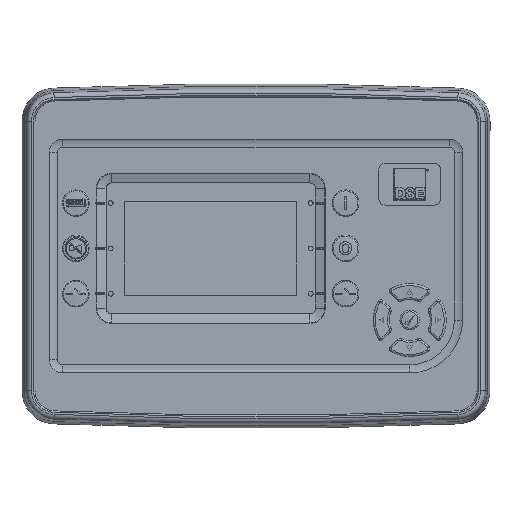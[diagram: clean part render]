
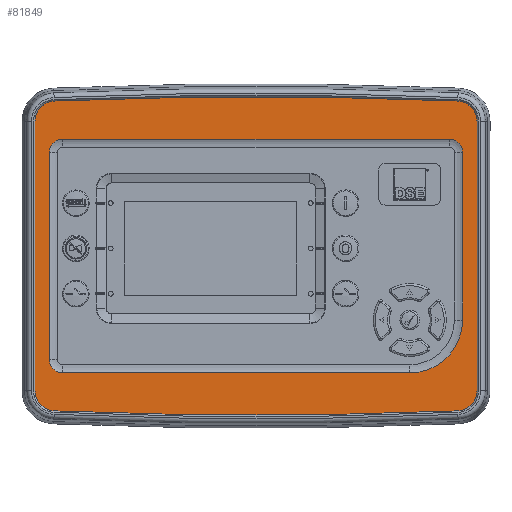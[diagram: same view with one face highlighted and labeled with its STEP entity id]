
A CAD part, top view. The second image highlights one B-rep face of the part: STEP entity #81849.
In plain terms, the highlighted planar face has unit normal (0, 0, 1).
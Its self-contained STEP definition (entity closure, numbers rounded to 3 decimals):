
#1801 = LINE ( 'NONE', #3977, #47409 ) ;
#1955 = CIRCLE ( 'NONE', #107808, 10.688 ) ;
#2365 = CARTESIAN_POINT ( 'NONE',  ( -106.958, 82.147, 14.3 ) ) ;
#3500 = VERTEX_POINT ( 'NONE', #53053 ) ;
#3977 = CARTESIAN_POINT ( 'NONE',  ( -102.5, -62., 14.3 ) ) ;
#4512 = AXIS2_PLACEMENT_3D ( 'NONE', #72890, #16916, #133772 ) ;
#6753 = EDGE_CURVE ( 'NONE', #3500, #36448, #64028, .T. ) ;
#8080 = DIRECTION ( 'NONE',  ( 0., 0., 1. ) ) ;
#8524 = EDGE_CURVE ( 'NONE', #18242, #41186, #1801, .T. ) ;
#8577 = DIRECTION ( 'NONE',  ( 1., 0., 0. ) ) ;
#9034 = VECTOR ( 'NONE', #92859, 1000. ) ;
#9946 = CARTESIAN_POINT ( 'NONE',  ( 109.5, 55., 14.3 ) ) ;
#10345 = EDGE_CURVE ( 'NONE', #132158, #3500, #126415, .T. ) ;
#11503 = CARTESIAN_POINT ( 'NONE',  ( 117.188, 71.468, 14.3 ) ) ;
#12013 = CIRCLE ( 'NONE', #138997, 7. ) ;
#13004 = CARTESIAN_POINT ( 'NONE',  ( 109.5, -34., 14.3 ) ) ;
#13156 = EDGE_CURVE ( 'NONE', #49899, #44950, #78149, .T. ) ;
#13270 = VERTEX_POINT ( 'NONE', #94265 ) ;
#13545 = DIRECTION ( 'NONE',  ( 0., 0., 1. ) ) ;
#14866 = AXIS2_PLACEMENT_3D ( 'NONE', #68294, #113221, #101439 ) ;
#16916 = DIRECTION ( 'NONE',  ( 0., 0., 1. ) ) ;
#18242 = VERTEX_POINT ( 'NONE', #24667 ) ;
#18370 = AXIS2_PLACEMENT_3D ( 'NONE', #31629, #8080, #44133 ) ;
#18471 = VERTEX_POINT ( 'NONE', #82819 ) ;
#18879 = ORIENTED_EDGE ( 'NONE', *, *, #8524, .F. ) ;
#21655 = ORIENTED_EDGE ( 'NONE', *, *, #24276, .F. ) ;
#21661 = ORIENTED_EDGE ( 'NONE', *, *, #32324, .F. ) ;
#24276 = EDGE_CURVE ( 'NONE', #37782, #130845, #119709, .T. ) ;
#24667 = CARTESIAN_POINT ( 'NONE',  ( -102.5, -62., 14.3 ) ) ;
#26367 = DIRECTION ( 'NONE',  ( 1., 0., 0. ) ) ;
#30683 = CARTESIAN_POINT ( 'NONE',  ( -102.5, 55., 14.3 ) ) ;
#31629 = CARTESIAN_POINT ( 'NONE',  ( 0., -2412.792, 14.3 ) ) ;
#31733 = EDGE_CURVE ( 'NONE', #104806, #132158, #1955, .T. ) ;
#32324 = EDGE_CURVE ( 'NONE', #39393, #13270, #145589, .T. ) ;
#32832 = DIRECTION ( 'NONE',  ( 0., -1., 0. ) ) ;
#34470 = EDGE_CURVE ( 'NONE', #36448, #45423, #100597, .T. ) ;
#34920 = ORIENTED_EDGE ( 'NONE', *, *, #40389, .T. ) ;
#35417 = VERTEX_POINT ( 'NONE', #48470 ) ;
#36448 = VERTEX_POINT ( 'NONE', #95382 ) ;
#36940 = DIRECTION ( 'NONE',  ( 1., 0., 0. ) ) ;
#37134 = CARTESIAN_POINT ( 'NONE',  ( 106.5, -71.468, 14.3 ) ) ;
#37782 = VERTEX_POINT ( 'NONE', #9946 ) ;
#38119 = AXIS2_PLACEMENT_3D ( 'NONE', #78885, #68552, #124515 ) ;
#38376 = ORIENTED_EDGE ( 'NONE', *, *, #6753, .T. ) ;
#39393 = VERTEX_POINT ( 'NONE', #143302 ) ;
#40389 = EDGE_CURVE ( 'NONE', #45423, #35417, #92574, .T. ) ;
#41186 = VERTEX_POINT ( 'NONE', #122103 ) ;
#41550 = CARTESIAN_POINT ( 'NONE',  ( -106.5, -71.468, 14.3 ) ) ;
#43835 = CARTESIAN_POINT ( 'NONE',  ( -102.5, -55., 14.3 ) ) ;
#44133 = DIRECTION ( 'NONE',  ( 1., 0., 0. ) ) ;
#44950 = VERTEX_POINT ( 'NONE', #94693 ) ;
#44984 = VERTEX_POINT ( 'NONE', #13004 ) ;
#45048 = CARTESIAN_POINT ( 'NONE',  ( -109.5, 55., 14.3 ) ) ;
#45423 = VERTEX_POINT ( 'NONE', #73148 ) ;
#46631 = ORIENTED_EDGE ( 'NONE', *, *, #34470, .T. ) ;
#47212 = DIRECTION ( 'NONE',  ( 0., -1., 0. ) ) ;
#47409 = VECTOR ( 'NONE', #63584, 1000. ) ;
#47980 = FACE_BOUND ( 'NONE', #64705, .T. ) ;
#48470 = CARTESIAN_POINT ( 'NONE',  ( 106.958, 82.147, 14.3 ) ) ;
#48587 = ORIENTED_EDGE ( 'NONE', *, *, #129292, .F. ) ;
#49899 = VERTEX_POINT ( 'NONE', #2365 ) ;
#49906 = ORIENTED_EDGE ( 'NONE', *, *, #31733, .T. ) ;
#51847 = DIRECTION ( 'NONE',  ( 1., 0., 0. ) ) ;
#53053 = CARTESIAN_POINT ( 'NONE',  ( 106.958, -82.147, 14.3 ) ) ;
#55631 = LINE ( 'NONE', #110898, #85195 ) ;
#57450 = ORIENTED_EDGE ( 'NONE', *, *, #139438, .F. ) ;
#59004 = CARTESIAN_POINT ( 'NONE',  ( 0., -2412.792, 14.3 ) ) ;
#59133 = ORIENTED_EDGE ( 'NONE', *, *, #100692, .T. ) ;
#60370 = ORIENTED_EDGE ( 'NONE', *, *, #122349, .F. ) ;
#63584 = DIRECTION ( 'NONE',  ( 1., 0., 0. ) ) ;
#64028 = CIRCLE ( 'NONE', #111127, 10.688 ) ;
#64705 = EDGE_LOOP ( 'NONE', ( #57450, #18879, #94805, #113857, #21661, #60370, #21655, #48587 ) ) ;
#65384 = DIRECTION ( 'NONE',  ( 0., 1., 0. ) ) ;
#66226 = CIRCLE ( 'NONE', #127391, 28. ) ;
#67354 = DIRECTION ( 'NONE',  ( 1., 0., 0. ) ) ;
#68294 = CARTESIAN_POINT ( 'NONE',  ( 106.5, 71.468, 14.3 ) ) ;
#68552 = DIRECTION ( 'NONE',  ( 0., 0., 1. ) ) ;
#68909 = DIRECTION ( 'NONE',  ( 0., 1., 0. ) ) ;
#69200 = ORIENTED_EDGE ( 'NONE', *, *, #109502, .T. ) ;
#69818 = VECTOR ( 'NONE', #65384, 1000. ) ;
#70116 = EDGE_CURVE ( 'NONE', #18471, #18242, #12013, .T. ) ;
#70739 = LINE ( 'NONE', #137043, #9034 ) ;
#72890 = CARTESIAN_POINT ( 'NONE',  ( 102.5, 55., 14.3 ) ) ;
#73148 = CARTESIAN_POINT ( 'NONE',  ( 117.188, 71.468, 14.3 ) ) ;
#76317 = DIRECTION ( 'NONE',  ( 0., 0., 1. ) ) ;
#78149 = CIRCLE ( 'NONE', #38119, 10.688 ) ;
#78885 = CARTESIAN_POINT ( 'NONE',  ( -106.5, 71.468, 14.3 ) ) ;
#81849 = ADVANCED_FACE ( 'NONE', ( #47980, #126017 ), #123850, .T. ) ;
#82819 = CARTESIAN_POINT ( 'NONE',  ( -109.5, -55., 14.3 ) ) ;
#82937 = CARTESIAN_POINT ( 'NONE',  ( -117.188, -71.468, 14.3 ) ) ;
#85195 = VECTOR ( 'NONE', #32832, 1000. ) ;
#86056 = CARTESIAN_POINT ( 'NONE',  ( 109.5, 55., 14.3 ) ) ;
#88425 = DIRECTION ( 'NONE',  ( 1., 0., 0. ) ) ;
#89470 = DIRECTION ( 'NONE',  ( 0., 0., 1. ) ) ;
#91760 = ORIENTED_EDGE ( 'NONE', *, *, #10345, .T. ) ;
#92574 = CIRCLE ( 'NONE', #14866, 10.688 ) ;
#92859 = DIRECTION ( 'NONE',  ( -1., 0., 0. ) ) ;
#94265 = CARTESIAN_POINT ( 'NONE',  ( -109.5, 55., 14.3 ) ) ;
#94693 = CARTESIAN_POINT ( 'NONE',  ( -117.188, 71.468, 14.3 ) ) ;
#94805 = ORIENTED_EDGE ( 'NONE', *, *, #70116, .F. ) ;
#95382 = CARTESIAN_POINT ( 'NONE',  ( 117.188, -71.468, 14.3 ) ) ;
#100597 = LINE ( 'NONE', #11503, #120105 ) ;
#100692 = EDGE_CURVE ( 'NONE', #44950, #104806, #55631, .T. ) ;
#101439 = DIRECTION ( 'NONE',  ( 1., 0., 0. ) ) ;
#103923 = DIRECTION ( 'NONE',  ( 0., 0., 1. ) ) ;
#104806 = VERTEX_POINT ( 'NONE', #82937 ) ;
#107808 = AXIS2_PLACEMENT_3D ( 'NONE', #41550, #140956, #51847 ) ;
#107829 = EDGE_LOOP ( 'NONE', ( #34920, #69200, #134318, #59133, #49906, #91760, #38376, #46631 ) ) ;
#109502 = EDGE_CURVE ( 'NONE', #35417, #49899, #124135, .T. ) ;
#110898 = CARTESIAN_POINT ( 'NONE',  ( -117.188, 71.468, 14.3 ) ) ;
#111127 = AXIS2_PLACEMENT_3D ( 'NONE', #37134, #13545, #125477 ) ;
#112337 = AXIS2_PLACEMENT_3D ( 'NONE', #112696, #145142, #88425 ) ;
#112696 = CARTESIAN_POINT ( 'NONE',  ( 0., 2412.792, 14.3 ) ) ;
#113221 = DIRECTION ( 'NONE',  ( 0., 0., 1. ) ) ;
#113857 = ORIENTED_EDGE ( 'NONE', *, *, #126922, .F. ) ;
#116195 = DIRECTION ( 'NONE',  ( 0., 0., 1. ) ) ;
#118443 = LINE ( 'NONE', #86056, #69818 ) ;
#119709 = CIRCLE ( 'NONE', #4512, 7. ) ;
#120105 = VECTOR ( 'NONE', #68909, 1000. ) ;
#122103 = CARTESIAN_POINT ( 'NONE',  ( 81.5, -62., 14.3 ) ) ;
#122349 = EDGE_CURVE ( 'NONE', #130845, #39393, #70739, .T. ) ;
#123850 = PLANE ( 'NONE',  #127725 ) ;
#124135 = CIRCLE ( 'NONE', #18370, 2497.23 ) ;
#124515 = DIRECTION ( 'NONE',  ( 1., 0., 0. ) ) ;
#124733 = VECTOR ( 'NONE', #47212, 1000. ) ;
#125477 = DIRECTION ( 'NONE',  ( 1., 0., 0. ) ) ;
#125779 = CARTESIAN_POINT ( 'NONE',  ( 81.5, -34., 14.3 ) ) ;
#125973 = LINE ( 'NONE', #45048, #124733 ) ;
#126017 = FACE_OUTER_BOUND ( 'NONE', #107829, .T. ) ;
#126415 = CIRCLE ( 'NONE', #112337, 2497.23 ) ;
#126922 = EDGE_CURVE ( 'NONE', #13270, #18471, #125973, .T. ) ;
#127391 = AXIS2_PLACEMENT_3D ( 'NONE', #125779, #116195, #26367 ) ;
#127725 = AXIS2_PLACEMENT_3D ( 'NONE', #59004, #103923, #36940 ) ;
#129292 = EDGE_CURVE ( 'NONE', #44984, #37782, #118443, .T. ) ;
#130845 = VERTEX_POINT ( 'NONE', #139298 ) ;
#132158 = VERTEX_POINT ( 'NONE', #132627 ) ;
#132627 = CARTESIAN_POINT ( 'NONE',  ( -106.958, -82.147, 14.3 ) ) ;
#133772 = DIRECTION ( 'NONE',  ( -1., 0., 0. ) ) ;
#134318 = ORIENTED_EDGE ( 'NONE', *, *, #13156, .T. ) ;
#137043 = CARTESIAN_POINT ( 'NONE',  ( -102.5, 62., 14.3 ) ) ;
#138511 = AXIS2_PLACEMENT_3D ( 'NONE', #30683, #76317, #8577 ) ;
#138997 = AXIS2_PLACEMENT_3D ( 'NONE', #43835, #89470, #67354 ) ;
#139298 = CARTESIAN_POINT ( 'NONE',  ( 102.5, 62., 14.3 ) ) ;
#139438 = EDGE_CURVE ( 'NONE', #41186, #44984, #66226, .T. ) ;
#140956 = DIRECTION ( 'NONE',  ( 0., 0., 1. ) ) ;
#143302 = CARTESIAN_POINT ( 'NONE',  ( -102.5, 62., 14.3 ) ) ;
#145142 = DIRECTION ( 'NONE',  ( 0., 0., 1. ) ) ;
#145589 = CIRCLE ( 'NONE', #138511, 7. ) ;
